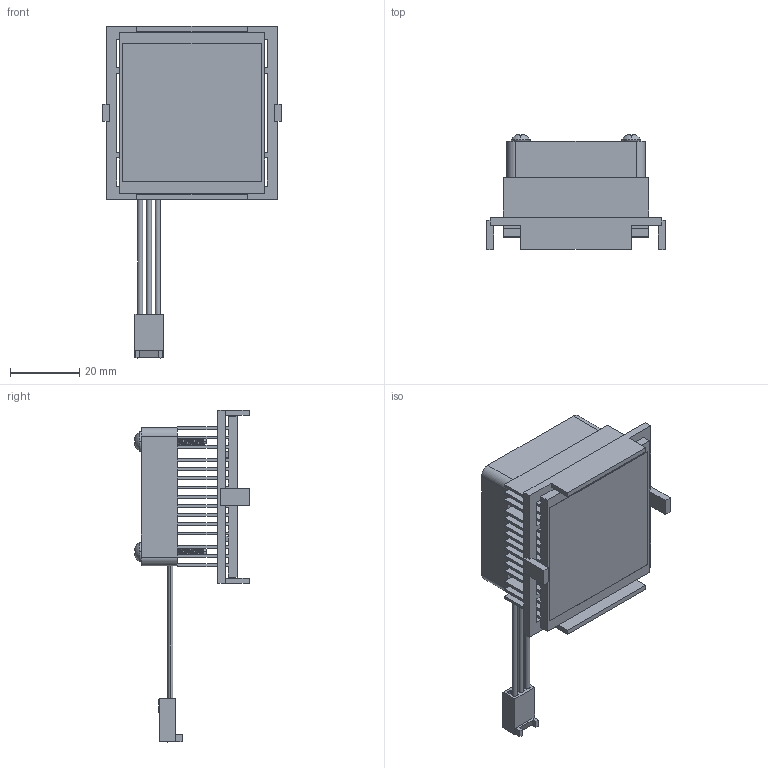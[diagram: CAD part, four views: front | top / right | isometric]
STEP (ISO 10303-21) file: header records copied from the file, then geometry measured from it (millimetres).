
FILE_DESCRIPTION (( 'STEP AP214' ), '1' );
FILE_NAME ('FA47.5-2.5+Y.STEP', '2023-03-07T16:41:38', ( '' ), ( '' ), 'SwSTEP 2.0', 'SolidWorks 2020', '' );
FILE_SCHEMA (( 'AUTOMOTIVE_DESIGN' ));
Length unit declared in the file: millimetre
Products named in the file (1): FA47.5-2.5+Y
Bounding box: 51.7 x 33.28 x 96.1 mm (x, y, z)
Volume: 23427.7 mm3; surface area: 39417.5 mm2
Topology: 8 solids, 8 shells, 843 faces, 2461 edges, 1636 vertices
Faces by surface type: plane 327, cylinder 306, bspline 158, cone 36, sphere 8, torus 8
Entity records: 46069 total; most frequent: CARTESIAN_POINT 17341, ORIENTED_EDGE 4922, DIRECTION 3161, EDGE_CURVE 2461, VERTEX_POINT 1636, LINE 1249, VECTOR 1249, AXIS2_PLACEMENT_3D 956
